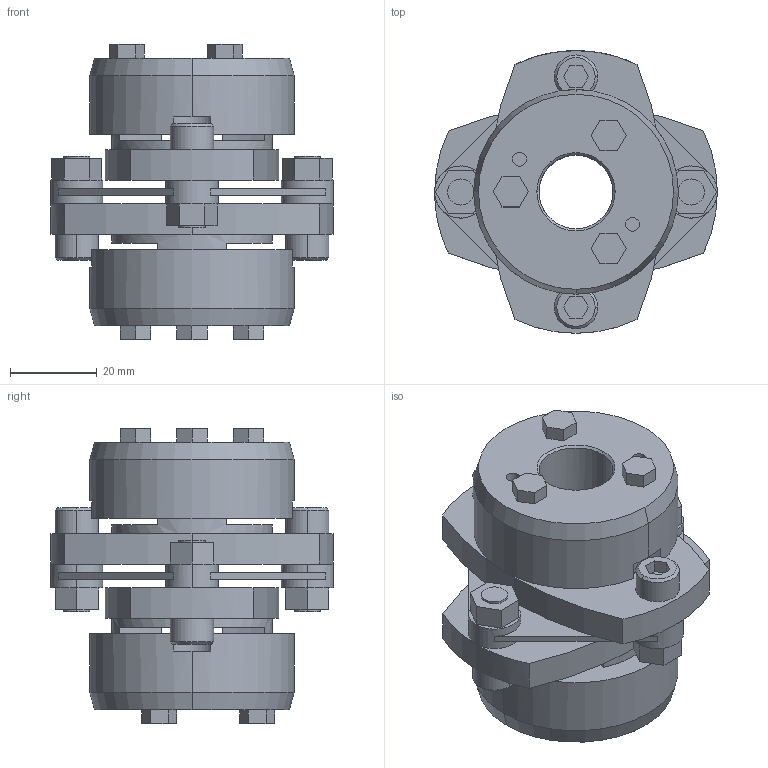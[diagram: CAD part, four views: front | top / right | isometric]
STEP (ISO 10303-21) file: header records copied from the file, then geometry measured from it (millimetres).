
FILE_DESCRIPTION((''),'2;1');
FILE_NAME('LCS-65T7-17×17.stp','2011-08-23T13:17:07',(''),(''),'AutoCAD STEP 2000i','AutoCAD 2000i',', , ');
FILE_SCHEMA(('CONFIG_CONTROL_DESIGN'));
Length unit declared in the file: millimetre
Products named in the file (7): LCS-65T7-17×17; 忣兜1; LC65T7-T017-1; LC65T7-T017; LC65T7-T015-1; LC65T7-T015; LCS65-ITA
Assembly tree (6 placements, depth 2):
  LCS-65T7-17×17
    忣兜1
    LC65T7-T017-1
    LC65T7-T017
    LC65T7-T015-1
    LC65T7-T015
    LCS65-ITA
Bounding box: 65 x 65 x 67.9 mm (x, y, z)
Volume: 92885 mm3; surface area: 30111.8 mm2
Topology: 1 solids, 1 shells, 228 faces, 586 edges, 382 vertices
Faces by surface type: plane 136, cylinder 72, cone 20
Entity records: 7167 total; most frequent: DIRECTION 1266, CARTESIAN_POINT 1203, ORIENTED_EDGE 1172, EDGE_CURVE 586, AXIS2_PLACEMENT_3D 445, VERTEX_POINT 382, VECTOR 376, LINE 376
